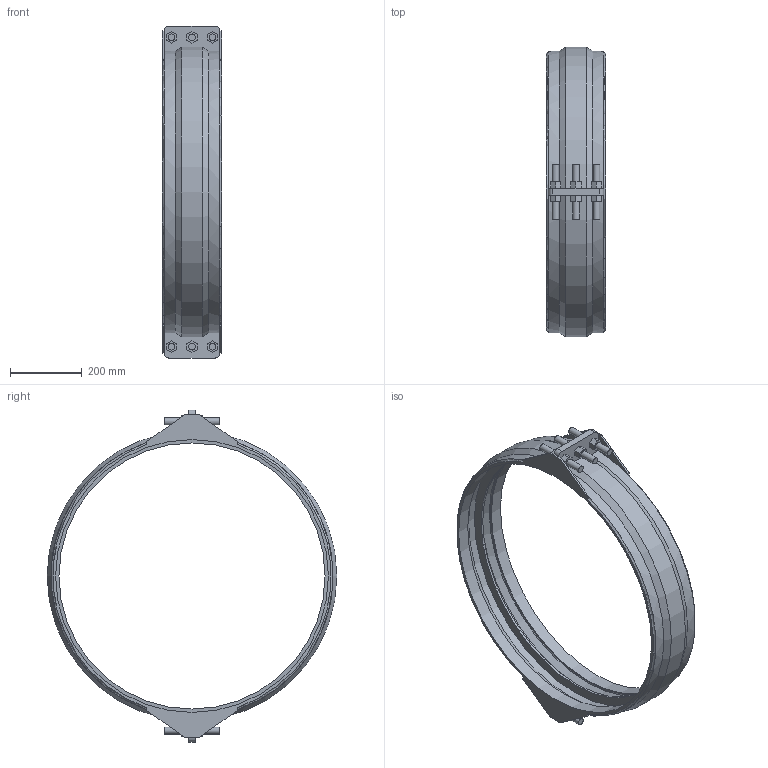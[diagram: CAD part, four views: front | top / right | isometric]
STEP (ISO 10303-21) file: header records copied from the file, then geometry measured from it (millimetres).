
FILE_DESCRIPTION(/* description */ ('VIC SS RESTRAINED COUPLING STYLE 234S (FLEX) (BRS)','CAx-IF Rec.Pracs.---Representation and Presentation of Product Manufacturing Information (PMI)---4.0---2014-10-13'),/* implementation_level */ '2;1');
FILE_NAME(/* name */ 'C:\Users\kkamble\AppData\Roaming\Autodesk\ApplicationPlugins\Back Up\Victaulic_VBSP_Coupling Flexible Restrained_Style 234S (BRS)\Victaulic_VBSP_Coupling Flexible Restrained_Style 234S (BRS)_150psi_30 (750).stp',/* time_stamp */ '2020-09-22T18:41:24+05:00',/* author */ ('Vjadhav'),/* organization */ ('Victaulic'),/* preprocessor_version */ 'ST-DEVELOPER v17.2',/* originating_system */ 'Autodesk Inventor 2019',/* authorisation */ '');
FILE_SCHEMA (('AP242_MANAGED_MODEL_BASED_3D_ENGINEERING_MIM_LF { 1 0 10303 442 1 1 4 }'));
Length unit declared in the file: inch
Products named in the file (1): Style_234S_Type_2_150psi-30.0
Bounding box: 165.1 x 808.91 x 927.1 mm (x, y, z)
Volume: 5005796.8 mm3; surface area: 1210894.2 mm2
Topology: 1 solids, 1 shells, 191 faces, 477 edges, 316 vertices
Faces by surface type: plane 136, cylinder 43, torus 6, cone 6
Full cylindrical faces by diameter (mm): 19.05 x12, 742.95 x1, 762 x2, 796.208 x2
Entity records: 6138 total; most frequent: CARTESIAN_POINT 1154, DIRECTION 989, ORIENTED_EDGE 954, EDGE_CURVE 477, LINE 343, VECTOR 343, AXIS2_PLACEMENT_3D 323, VERTEX_POINT 316
